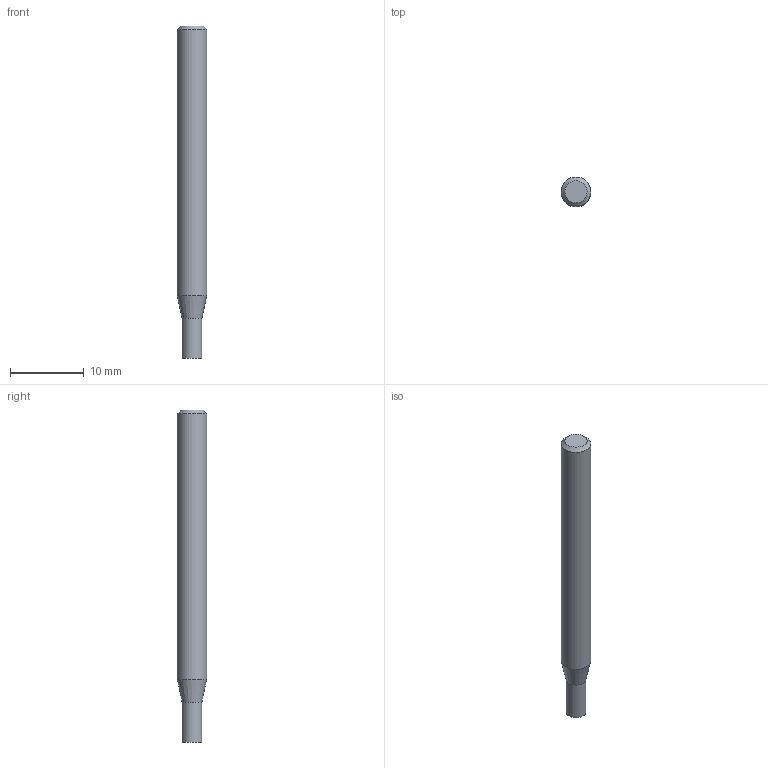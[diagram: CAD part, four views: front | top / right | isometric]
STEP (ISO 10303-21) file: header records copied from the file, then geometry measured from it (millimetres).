
FILE_DESCRIPTION((''),'2;1');
FILE_NAME('C:\Users\nsx150\AppData\Local\Temp\Mastercam 2021\E36A1X9CCL\TEMP.step','2023-04-21T15:12:35',(''),(''),'STEP Write','Mastercam 2021 ... CNC Software, Inc.','');
FILE_SCHEMA(('AUTOMOTIVE_DESIGN'));
Length unit declared in the file: millimetre
Products named in the file (1): None
Bounding box: 4 x 4 x 45 mm (x, y, z)
Volume: 516 mm3; surface area: 563.6 mm2
Topology: 2 solids, 2 shells, 8 faces, 10 edges, 6 vertices
Faces by surface type: plane 4, cylinder 2, cone 2
Full cylindrical faces by diameter (mm): 2.7 x1, 4 x1
Entity records: 190 total; most frequent: DIRECTION 32, CARTESIAN_POINT 22, AXIS2_PLACEMENT_3D 16, ORIENTED_EDGE 12, EDGE_LOOP 12, STYLED_ITEM 11, ADVANCED_FACE 8, VERTEX_POINT 6
